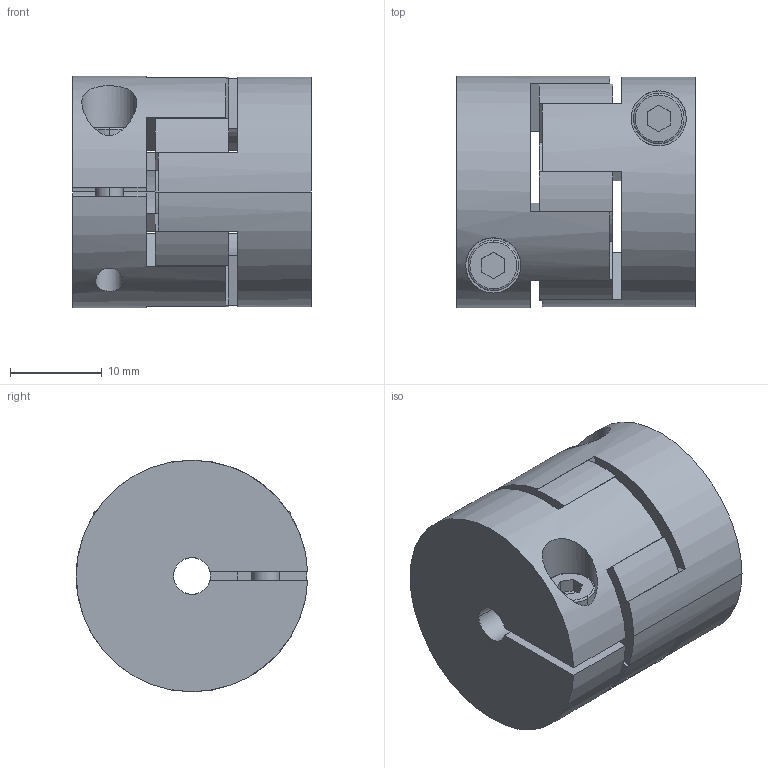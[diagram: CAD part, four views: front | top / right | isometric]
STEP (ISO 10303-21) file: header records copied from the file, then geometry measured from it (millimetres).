
FILE_DESCRIPTION(('STEP AP214'),'1');
FILE_NAME('EKL_5_26_A_4_4_2.stp','2020-10-30T18:05:21',('R+W Antriebselemente GmbH'),(''),'Spatial InterOp 3D',' ',' ');
FILE_SCHEMA(('AUTOMOTIVE_DESIGN'));
Length unit declared in the file: millimetre
Products named in the file (3): 2020_10_30__19-05-21-634
Bounding box: 26 x 25.19 x 25.2 mm (x, y, z)
Volume: 10798.8 mm3; surface area: 7041 mm2
Topology: 3 solids, 3 shells, 118 faces, 302 edges, 200 vertices
Faces by surface type: plane 62, cylinder 52, torus 4
Entity records: 4836 total; most frequent: CARTESIAN_POINT 839, DIRECTION 652, ORIENTED_EDGE 604, EDGE_CURVE 302, AXIS2_PLACEMENT_3D 237, VERTEX_POINT 200, LINE 178, VECTOR 178
